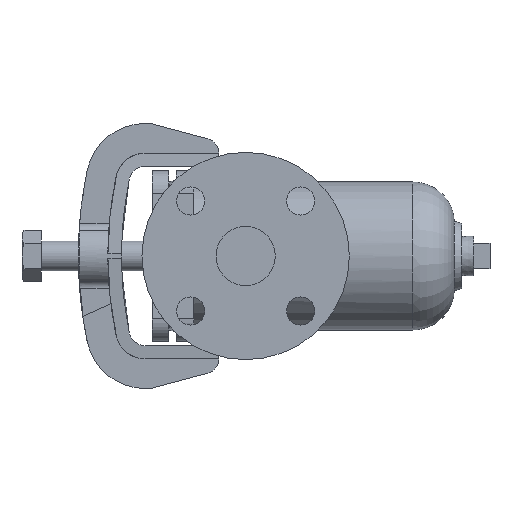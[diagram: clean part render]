
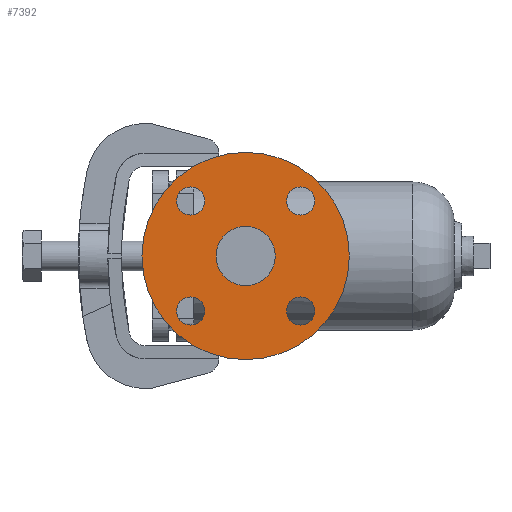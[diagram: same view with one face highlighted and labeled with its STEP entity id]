
A CAD part, left-side view. The second image highlights one B-rep face of the part: STEP entity #7392.
In plain terms, the highlighted planar face has unit normal (-1, 0, 0).
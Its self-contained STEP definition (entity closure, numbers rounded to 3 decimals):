
#36 = FACE_BOUND ( 'NONE', #5442, .T. ) ;
#108 = DIRECTION ( 'NONE',  ( -1., 0., 0. ) ) ;
#135 = CARTESIAN_POINT ( 'NONE',  ( -100., 37.123, 37.123 ) ) ;
#194 = ORIENTED_EDGE ( 'NONE', *, *, #1200, .F. ) ;
#376 = DIRECTION ( 'NONE',  ( -1., 0., 0. ) ) ;
#402 = CARTESIAN_POINT ( 'NONE',  ( -100., 0., 20. ) ) ;
#467 = EDGE_CURVE ( 'NONE', #2309, #2067, #523, .T. ) ;
#499 = VERTEX_POINT ( 'NONE', #3611 ) ;
#523 = CIRCLE ( 'NONE', #3322, 9.5 ) ;
#528 = AXIS2_PLACEMENT_3D ( 'NONE', #3815, #6291, #5827 ) ;
#553 = DIRECTION ( 'NONE',  ( 0., 1., 0. ) ) ;
#791 = CIRCLE ( 'NONE', #4786, 20. ) ;
#893 = ORIENTED_EDGE ( 'NONE', *, *, #8087, .F. ) ;
#952 = DIRECTION ( 'NONE',  ( 0., 0., 1. ) ) ;
#969 = VERTEX_POINT ( 'NONE', #6738 ) ;
#970 = EDGE_LOOP ( 'NONE', ( #4270, #194 ) ) ;
#997 = CIRCLE ( 'NONE', #4863, 9.5 ) ;
#1200 = EDGE_CURVE ( 'NONE', #2067, #2309, #7884, .T. ) ;
#1385 = DIRECTION ( 'NONE',  ( -1., 0., 0. ) ) ;
#1455 = ORIENTED_EDGE ( 'NONE', *, *, #7105, .F. ) ;
#1531 = VERTEX_POINT ( 'NONE', #2956 ) ;
#1572 = VERTEX_POINT ( 'NONE', #1917 ) ;
#1638 = EDGE_CURVE ( 'NONE', #6894, #7615, #791, .T. ) ;
#1678 = DIRECTION ( 'NONE',  ( -1., 0., 0. ) ) ;
#1850 = DIRECTION ( 'NONE',  ( -1., 0., 0. ) ) ;
#1917 = CARTESIAN_POINT ( 'NONE',  ( -100., -37.123, -46.623 ) ) ;
#1924 = ORIENTED_EDGE ( 'NONE', *, *, #1638, .F. ) ;
#1931 = DIRECTION ( 'NONE',  ( 0., 0., 1. ) ) ;
#2031 = ORIENTED_EDGE ( 'NONE', *, *, #4093, .F. ) ;
#2067 = VERTEX_POINT ( 'NONE', #6875 ) ;
#2166 = EDGE_CURVE ( 'NONE', #7615, #6894, #2335, .T. ) ;
#2292 = CARTESIAN_POINT ( 'NONE',  ( -100., 37.123, -37.123 ) ) ;
#2309 = VERTEX_POINT ( 'NONE', #7205 ) ;
#2335 = CIRCLE ( 'NONE', #7935, 20. ) ;
#2391 = CIRCLE ( 'NONE', #6388, 9.5 ) ;
#2410 = ORIENTED_EDGE ( 'NONE', *, *, #8043, .T. ) ;
#2458 = AXIS2_PLACEMENT_3D ( 'NONE', #5563, #3549, #6110 ) ;
#2577 = FACE_BOUND ( 'NONE', #5679, .T. ) ;
#2581 = CIRCLE ( 'NONE', #4050, 9.5 ) ;
#2633 = CIRCLE ( 'NONE', #7302, 9.5 ) ;
#2662 = CIRCLE ( 'NONE', #528, 9.5 ) ;
#2725 = ORIENTED_EDGE ( 'NONE', *, *, #3658, .F. ) ;
#2803 = ORIENTED_EDGE ( 'NONE', *, *, #2166, .F. ) ;
#2956 = CARTESIAN_POINT ( 'NONE',  ( -100., 37.123, 46.623 ) ) ;
#3003 = CARTESIAN_POINT ( 'NONE',  ( -100., -37.123, 27.623 ) ) ;
#3037 = ORIENTED_EDGE ( 'NONE', *, *, #4493, .F. ) ;
#3195 = DIRECTION ( 'NONE',  ( 0., 0., 1. ) ) ;
#3248 = CARTESIAN_POINT ( 'NONE',  ( -100., 0., -20. ) ) ;
#3322 = AXIS2_PLACEMENT_3D ( 'NONE', #2292, #6789, #952 ) ;
#3359 = DIRECTION ( 'NONE',  ( 0., 0., 1. ) ) ;
#3462 = DIRECTION ( 'NONE',  ( -1., 0., 0. ) ) ;
#3549 = DIRECTION ( 'NONE',  ( -1., 0., 0. ) ) ;
#3611 = CARTESIAN_POINT ( 'NONE',  ( -100., -37.123, 46.623 ) ) ;
#3658 = EDGE_CURVE ( 'NONE', #1572, #4142, #2391, .T. ) ;
#3706 = FACE_BOUND ( 'NONE', #5544, .T. ) ;
#3815 = CARTESIAN_POINT ( 'NONE',  ( -100., -37.123, 37.123 ) ) ;
#3876 = FACE_OUTER_BOUND ( 'NONE', #7233, .T. ) ;
#4050 = AXIS2_PLACEMENT_3D ( 'NONE', #5974, #3462, #6020 ) ;
#4093 = EDGE_CURVE ( 'NONE', #7586, #1531, #6256, .T. ) ;
#4142 = VERTEX_POINT ( 'NONE', #4450 ) ;
#4270 = ORIENTED_EDGE ( 'NONE', *, *, #467, .F. ) ;
#4450 = CARTESIAN_POINT ( 'NONE',  ( -100., -37.123, -27.623 ) ) ;
#4493 = EDGE_CURVE ( 'NONE', #7988, #499, #2662, .T. ) ;
#4574 = ORIENTED_EDGE ( 'NONE', *, *, #6235, .F. ) ;
#4595 = DIRECTION ( 'NONE',  ( -1., 0., 0. ) ) ;
#4721 = CARTESIAN_POINT ( 'NONE',  ( -100., 37.123, 37.123 ) ) ;
#4742 = DIRECTION ( 'NONE',  ( 0., 0., -1. ) ) ;
#4786 = AXIS2_PLACEMENT_3D ( 'NONE', #7388, #1678, #3195 ) ;
#4863 = AXIS2_PLACEMENT_3D ( 'NONE', #6046, #5913, #4742 ) ;
#5020 = CARTESIAN_POINT ( 'NONE',  ( -100., 37.123, -37.123 ) ) ;
#5065 = CARTESIAN_POINT ( 'NONE',  ( -100., 0., 70. ) ) ;
#5070 = DIRECTION ( 'NONE',  ( -1., 0., 0. ) ) ;
#5106 = DIRECTION ( 'NONE',  ( 0., -1., 0. ) ) ;
#5178 = DIRECTION ( 'NONE',  ( 1., 0., 0. ) ) ;
#5274 = EDGE_LOOP ( 'NONE', ( #893, #2031 ) ) ;
#5336 = AXIS2_PLACEMENT_3D ( 'NONE', #4721, #376, #7980 ) ;
#5442 = EDGE_LOOP ( 'NONE', ( #1455, #2725 ) ) ;
#5544 = EDGE_LOOP ( 'NONE', ( #4574, #3037 ) ) ;
#5563 = CARTESIAN_POINT ( 'NONE',  ( -100., 0., 0. ) ) ;
#5679 = EDGE_LOOP ( 'NONE', ( #2803, #1924 ) ) ;
#5715 = FACE_BOUND ( 'NONE', #970, .T. ) ;
#5757 = FACE_BOUND ( 'NONE', #5274, .T. ) ;
#5827 = DIRECTION ( 'NONE',  ( 0., 0., -1. ) ) ;
#5913 = DIRECTION ( 'NONE',  ( -1., 0., 0. ) ) ;
#5974 = CARTESIAN_POINT ( 'NONE',  ( -100., -37.123, -37.123 ) ) ;
#6020 = DIRECTION ( 'NONE',  ( 0., 1., 0. ) ) ;
#6046 = CARTESIAN_POINT ( 'NONE',  ( -100., -37.123, 37.123 ) ) ;
#6110 = DIRECTION ( 'NONE',  ( 0., 0., 1. ) ) ;
#6123 = CARTESIAN_POINT ( 'NONE',  ( -100., 37.123, 27.623 ) ) ;
#6235 = EDGE_CURVE ( 'NONE', #499, #7988, #997, .T. ) ;
#6256 = CIRCLE ( 'NONE', #5336, 9.5 ) ;
#6291 = DIRECTION ( 'NONE',  ( -1., 0., 0. ) ) ;
#6303 = CARTESIAN_POINT ( 'NONE',  ( -100., 0., 0. ) ) ;
#6315 = CARTESIAN_POINT ( 'NONE',  ( -100., 0., 0. ) ) ;
#6383 = PLANE ( 'NONE',  #6900 ) ;
#6388 = AXIS2_PLACEMENT_3D ( 'NONE', #6941, #1850, #553 ) ;
#6504 = AXIS2_PLACEMENT_3D ( 'NONE', #6315, #1385, #1931 ) ;
#6707 = EDGE_CURVE ( 'NONE', #8076, #969, #7534, .T. ) ;
#6738 = CARTESIAN_POINT ( 'NONE',  ( -100., 0., -70. ) ) ;
#6772 = CIRCLE ( 'NONE', #6504, 70. ) ;
#6789 = DIRECTION ( 'NONE',  ( -1., 0., 0. ) ) ;
#6875 = CARTESIAN_POINT ( 'NONE',  ( -100., 37.123, -46.623 ) ) ;
#6894 = VERTEX_POINT ( 'NONE', #3248 ) ;
#6900 = AXIS2_PLACEMENT_3D ( 'NONE', #6303, #5178, #7719 ) ;
#6941 = CARTESIAN_POINT ( 'NONE',  ( -100., -37.123, -37.123 ) ) ;
#7105 = EDGE_CURVE ( 'NONE', #4142, #1572, #2581, .T. ) ;
#7205 = CARTESIAN_POINT ( 'NONE',  ( -100., 37.123, -27.623 ) ) ;
#7210 = AXIS2_PLACEMENT_3D ( 'NONE', #5020, #5070, #7491 ) ;
#7233 = EDGE_LOOP ( 'NONE', ( #7531, #2410 ) ) ;
#7302 = AXIS2_PLACEMENT_3D ( 'NONE', #135, #4595, #5106 ) ;
#7388 = CARTESIAN_POINT ( 'NONE',  ( -100., 0., 0. ) ) ;
#7392 = ADVANCED_FACE ( 'NONE', ( #36, #3706, #5757, #5715, #2577, #3876 ), #6383, .F. ) ;
#7491 = DIRECTION ( 'NONE',  ( 0., 0., 1. ) ) ;
#7531 = ORIENTED_EDGE ( 'NONE', *, *, #6707, .T. ) ;
#7534 = CIRCLE ( 'NONE', #2458, 70. ) ;
#7586 = VERTEX_POINT ( 'NONE', #6123 ) ;
#7615 = VERTEX_POINT ( 'NONE', #402 ) ;
#7708 = CARTESIAN_POINT ( 'NONE',  ( -100., 0., 0. ) ) ;
#7719 = DIRECTION ( 'NONE',  ( 0., 0., -1. ) ) ;
#7884 = CIRCLE ( 'NONE', #7210, 9.5 ) ;
#7935 = AXIS2_PLACEMENT_3D ( 'NONE', #7708, #108, #3359 ) ;
#7980 = DIRECTION ( 'NONE',  ( 0., -1., 0. ) ) ;
#7988 = VERTEX_POINT ( 'NONE', #3003 ) ;
#8043 = EDGE_CURVE ( 'NONE', #969, #8076, #6772, .T. ) ;
#8076 = VERTEX_POINT ( 'NONE', #5065 ) ;
#8087 = EDGE_CURVE ( 'NONE', #1531, #7586, #2633, .T. ) ;
